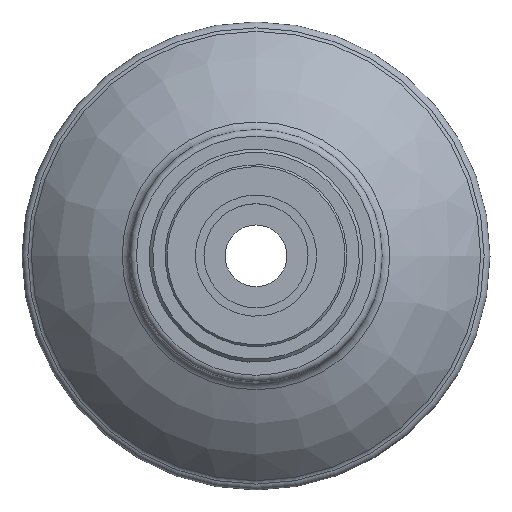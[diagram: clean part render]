
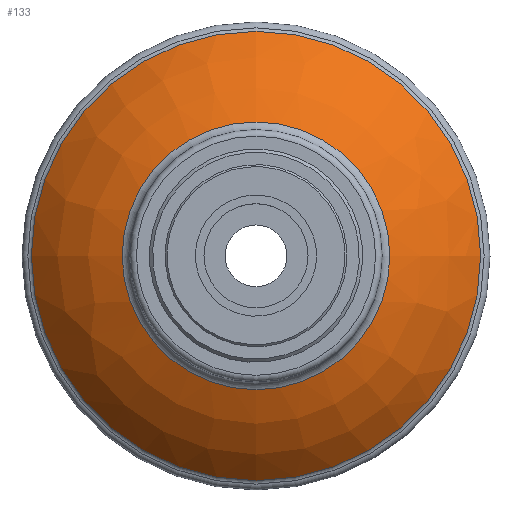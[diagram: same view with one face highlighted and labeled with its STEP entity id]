
A CAD part, top view. The second image highlights one B-rep face of the part: STEP entity #133.
In plain terms, the highlighted free-form (B-spline) face has degree [3, 3] with [4, 7] control points.
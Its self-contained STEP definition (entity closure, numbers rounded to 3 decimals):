
#133 = ADVANCED_FACE( '', ( #299, #300 ), #301, .T. );
#299 = FACE_OUTER_BOUND( '', #587, .T. );
#300 = FACE_OUTER_BOUND( '', #588, .T. );
#301 = ( BOUNDED_SURFACE(  )B_SPLINE_SURFACE( 3, 3, ( ( #591, #592, #593, #594, #595, #596, #597 ), ( #598, #599, #600, #601, #602, #603, #604 ), ( #605, #606, #607, #608, #609, #610, #611 ), ( #612, #613, #614, #615, #616, #617, #618 ) ), .UNSPECIFIED., .F., .T., .F. )B_SPLINE_SURFACE_WITH_KNOTS( ( 4, 4 ), ( 4, 3, 4 ), ( 0., 6.283 ), ( 0.667, 0.936, 1.206 ), .UNSPECIFIED. )GEOMETRIC_REPRESENTATION_ITEM(  )RATIONAL_B_SPLINE_SURFACE( ( ( 1., 0.333, 0.333, 1., 0.333, 0.333, 1. ), ( 0.976, 0.325, 0.325, 0.976, 0.325, 0.325, 0.976 ), ( 0.976, 0.325, 0.325, 0.976, 0.325, 0.325, 0.976 ), ( 1., 0.333, 0.333, 1., 0.333, 0.333, 1. ) ) )REPRESENTATION_ITEM( '' )SURFACE(  ) );
#587 = EDGE_LOOP( '', ( #866 ) );
#588 = EDGE_LOOP( '', ( #867 ) );
#591 = CARTESIAN_POINT( '', ( 20.59, 0., -3.808 ) );
#592 = CARTESIAN_POINT( '', ( 20.59, 41.18, -3.808 ) );
#593 = CARTESIAN_POINT( '', ( -20.59, 41.18, -3.808 ) );
#594 = CARTESIAN_POINT( '', ( -20.59, 0., -3.808 ) );
#595 = CARTESIAN_POINT( '', ( -20.59, -41.18, -3.808 ) );
#596 = CARTESIAN_POINT( '', ( 20.59, -41.18, -3.808 ) );
#597 = CARTESIAN_POINT( '', ( 20.59, 0., -3.808 ) );
#598 = CARTESIAN_POINT( '', ( 26.122, 0., -5.922 ) );
#599 = CARTESIAN_POINT( '', ( 26.122, 52.244, -5.922 ) );
#600 = CARTESIAN_POINT( '', ( -26.122, 52.244, -5.922 ) );
#601 = CARTESIAN_POINT( '', ( -26.122, 0., -5.922 ) );
#602 = CARTESIAN_POINT( '', ( -26.122, -52.244, -5.922 ) );
#603 = CARTESIAN_POINT( '', ( 26.122, -52.244, -5.922 ) );
#604 = CARTESIAN_POINT( '', ( 26.122, 0., -5.922 ) );
#605 = CARTESIAN_POINT( '', ( 30.892, 0., -9.432 ) );
#606 = CARTESIAN_POINT( '', ( 30.892, 61.784, -9.432 ) );
#607 = CARTESIAN_POINT( '', ( -30.892, 61.784, -9.432 ) );
#608 = CARTESIAN_POINT( '', ( -30.892, 0., -9.432 ) );
#609 = CARTESIAN_POINT( '', ( -30.892, -61.784, -9.432 ) );
#610 = CARTESIAN_POINT( '', ( 30.892, -61.784, -9.432 ) );
#611 = CARTESIAN_POINT( '', ( 30.892, 0., -9.432 ) );
#612 = CARTESIAN_POINT( '', ( 34.556, 0., -14.085 ) );
#613 = CARTESIAN_POINT( '', ( 34.556, 69.112, -14.085 ) );
#614 = CARTESIAN_POINT( '', ( -34.556, 69.112, -14.085 ) );
#615 = CARTESIAN_POINT( '', ( -34.556, 0., -14.085 ) );
#616 = CARTESIAN_POINT( '', ( -34.556, -69.112, -14.085 ) );
#617 = CARTESIAN_POINT( '', ( 34.556, -69.112, -14.085 ) );
#618 = CARTESIAN_POINT( '', ( 34.556, 0., -14.085 ) );
#866 = ORIENTED_EDGE( '', *, *, #1102, .F. );
#867 = ORIENTED_EDGE( '', *, *, #1049, .T. );
#1049 = EDGE_CURVE( '', #1151, #1151, #1152, .T. );
#1102 = EDGE_CURVE( '', #1237, #1237, #1238, .T. );
#1151 = VERTEX_POINT( '', #1304 );
#1152 = CIRCLE( '', #1305, 34.556 );
#1237 = VERTEX_POINT( '', #1390 );
#1238 = CIRCLE( '', #1391, 20.59 );
#1304 = CARTESIAN_POINT( '', ( 34.556, 0., -14.085 ) );
#1305 = AXIS2_PLACEMENT_3D( '', #1456, #1457, #1458 );
#1390 = CARTESIAN_POINT( '', ( 20.59, 0., -3.808 ) );
#1391 = AXIS2_PLACEMENT_3D( '', #1555, #1556, #1557 );
#1456 = CARTESIAN_POINT( '', ( 0., 0., -14.085 ) );
#1457 = DIRECTION( '', ( 0., 0., 1. ) );
#1458 = DIRECTION( '', ( 1., 0., 0. ) );
#1555 = CARTESIAN_POINT( '', ( 0., 0., -3.808 ) );
#1556 = DIRECTION( '', ( 0., 0., 1. ) );
#1557 = DIRECTION( '', ( 1., 0., 0. ) );
